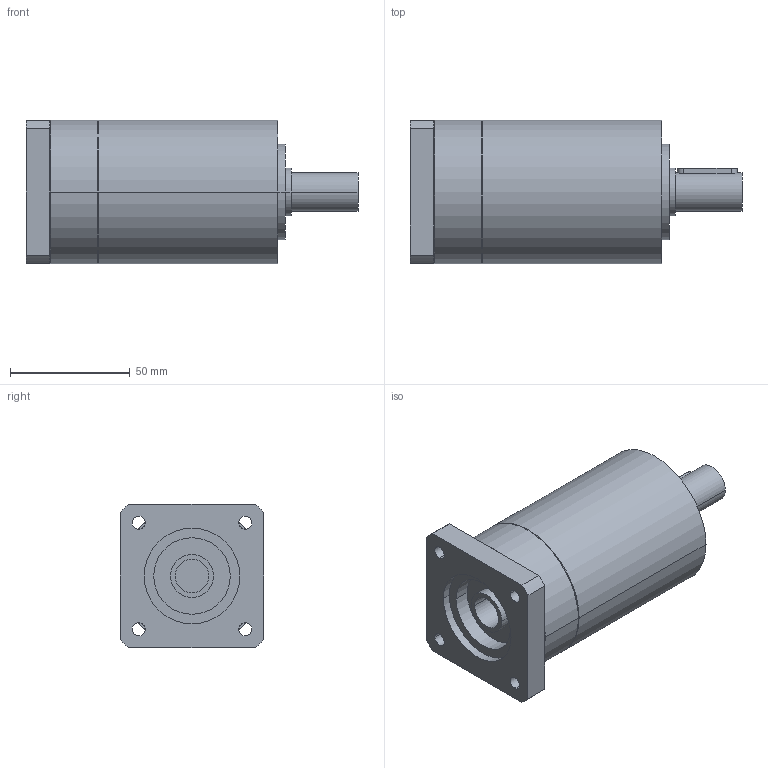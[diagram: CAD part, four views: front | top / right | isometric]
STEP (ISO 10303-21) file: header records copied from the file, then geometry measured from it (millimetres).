
FILE_DESCRIPTION(('CoCreate Modeling STEP Export'),'2;1');
FILE_NAME('GPR75_ig-9-12-16-20-24-30-36_16_B14_14_P03.stp','2014-08-25T16:45:07',(''),(''),'CoCreate Modeling STEP processor for AP214 (Solid Model)','CoCreate Modeling 16.00C 25-Feb-2009 (C) Parametric Technology GmbH','');
FILE_SCHEMA(('AUTOMOTIVE_DESIGN { 1 0 10303 214 1 1 1 1 }'));
Length unit declared in the file: millimetre
Products named in the file (2): GPR75_ig-9-12-16-20-24-30-36_16_B14_14_P03
Assembly tree (1 placements, depth 2):
  GPR75_ig-9-12-16-20-24-30-36_16_B14_14_P03
    GPR75_ig-9-12-16-20-24-30-36_16_B14_14_P03
Bounding box: 138.9 x 60 x 60 mm (x, y, z)
Volume: 300252.8 mm3; surface area: 33948.7 mm2
Topology: 1 solids, 1 shells, 86 faces, 233 edges, 161 vertices
Faces by surface type: cylinder 50, plane 30, cone 6
Entity records: 2322 total; most frequent: ORIENTED_EDGE 462, CARTESIAN_POINT 419, DIRECTION 314, EDGE_CURVE 231, VERTEX_POINT 161, AXIS2_PLACEMENT_3D 120, EDGE_LOOP 108, FACE_OUTER_BOUND 86
